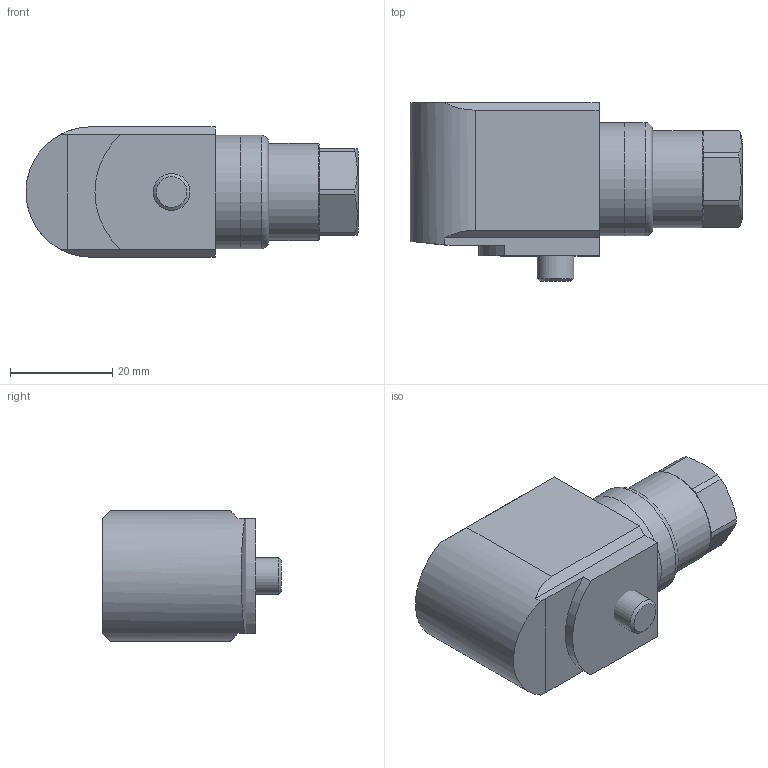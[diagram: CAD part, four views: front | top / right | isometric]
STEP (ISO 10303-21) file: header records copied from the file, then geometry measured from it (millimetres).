
FILE_DESCRIPTION(/* description */ (''),/* implementation_level */ '2;1');
FILE_NAME(/* name */ 'Z:\Engineering\Drawings\3D Library\Assemblies\Website\420 Velocity Side\HS-420SXXX0102.stp',/* time_stamp */ '2023-05-03T21:53:17+01:00',/* author */ ('Ricardo.Peneda'),/* organization */ (''),/* preprocessor_version */ 'ST-DEVELOPER v18.1',/* originating_system */ 'Autodesk Inventor 2021',/* authorisation */ '');
FILE_SCHEMA (('AUTOMOTIVE_DESIGN { 1 0 10303 214 3 1 1 }'));
Length unit declared in the file: inch
Products named in the file (1): HS-420SXXX0102_Shrinkwrap_1
Bounding box: 64.98 x 35 x 25.5 mm (x, y, z)
Volume: 22064.5 mm3; surface area: 13743.4 mm2
Topology: 5 solids, 5 shells, 89 faces, 226 edges, 164 vertices
Faces by surface type: plane 50, cylinder 30, cone 7, torus 2
Full cylindrical faces by diameter (mm): 4.5 x1, 5.359 x1, 7.2 x1, 9 x1, 10 x1, 11.2 x1, 11.647 x1, 12 x1, 13.882 x1, 15 x3, 18 x2, 19 x1, 19.95 x1, 20 x2, 20.4 x2, 22.2 x2
Entity records: 2971 total; most frequent: DIRECTION 524, CARTESIAN_POINT 510, ORIENTED_EDGE 452, EDGE_CURVE 226, AXIS2_PLACEMENT_3D 214, VERTEX_POINT 164, CIRCLE 119, EDGE_LOOP 112
